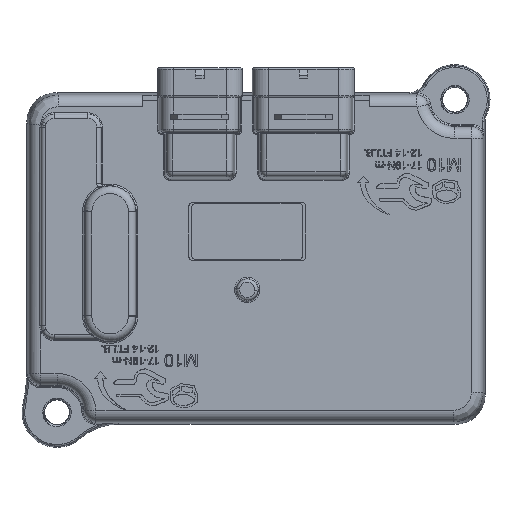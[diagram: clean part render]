
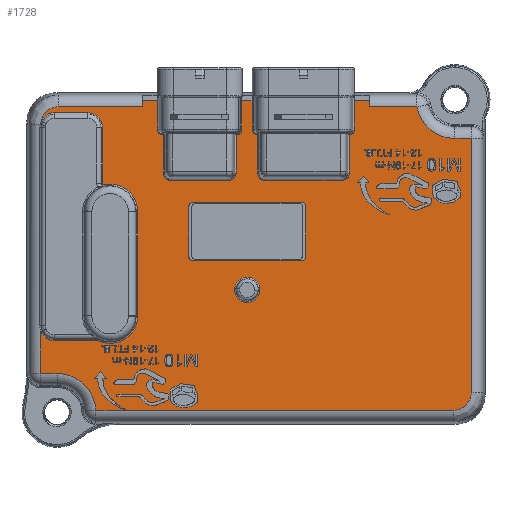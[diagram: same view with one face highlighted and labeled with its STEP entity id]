
A CAD part, front view. The second image highlights one B-rep face of the part: STEP entity #1728.
In plain terms, the highlighted planar face has unit normal (0, 1, 0).
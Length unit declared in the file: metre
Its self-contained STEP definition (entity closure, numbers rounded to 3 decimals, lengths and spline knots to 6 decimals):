
#1728=ADVANCED_FACE('0:30279',(#5224),#5225,.T.);
#5224=FACE_OUTER_BOUND('',#18381,.T.);
#5225=PLANE('',#18382);
#18381=EDGE_LOOP('',(#32280,#32281,#32282,#32283,#32284,#32285,#32286,#32287,#32288,#32289,#32290,#32291,#32292,#32293,#32294,#32295));
#18382=AXIS2_PLACEMENT_3D('',#32296,#32297,#32298);
#32280=ORIENTED_EDGE('',*,*,#36298,.F.);
#32281=ORIENTED_EDGE('',*,*,#36300,.T.);
#32282=ORIENTED_EDGE('',*,*,#36302,.T.);
#32283=ORIENTED_EDGE('',*,*,#32306,.T.);
#32284=ORIENTED_EDGE('',*,*,#36304,.T.);
#32285=ORIENTED_EDGE('',*,*,#36306,.T.);
#32286=ORIENTED_EDGE('',*,*,#36308,.F.);
#32287=ORIENTED_EDGE('',*,*,#36310,.T.);
#32288=ORIENTED_EDGE('',*,*,#36312,.F.);
#32289=ORIENTED_EDGE('',*,*,#36314,.T.);
#32290=ORIENTED_EDGE('',*,*,#36316,.T.);
#32291=ORIENTED_EDGE('',*,*,#36288,.T.);
#32292=ORIENTED_EDGE('',*,*,#36290,.T.);
#32293=ORIENTED_EDGE('',*,*,#36292,.T.);
#32294=ORIENTED_EDGE('',*,*,#36294,.F.);
#32295=ORIENTED_EDGE('',*,*,#36296,.T.);
#32296=CARTESIAN_POINT('',(0.0,0.003755,-0.075983));
#32297=DIRECTION('',(-0.0,1.0,0.0));
#32298=DIRECTION('',(1.0,0.0,0.0));
#32306=EDGE_CURVE('0:30291',#36330,#36328,#36331,.T.);
#36288=EDGE_CURVE('0:30315',#42768,#42766,#42769,.T.);
#36290=EDGE_CURVE('0:30318',#42766,#42771,#42772,.T.);
#36292=EDGE_CURVE('0:30321',#42771,#42774,#42775,.T.);
#36294=EDGE_CURVE('0:28572',#42777,#42774,#42778,.T.);
#36296=EDGE_CURVE('0:30327',#42777,#42780,#42781,.T.);
#36298=EDGE_CURVE('0:28427',#42783,#42780,#42784,.T.);
#36300=EDGE_CURVE('0:30285',#42783,#42786,#42787,.T.);
#36302=EDGE_CURVE('0:30288',#42786,#36330,#42789,.T.);
#36304=EDGE_CURVE('0:30294',#36328,#42791,#42792,.T.);
#36306=EDGE_CURVE('0:30297',#42791,#42794,#42795,.T.);
#36308=EDGE_CURVE('0:28016',#42797,#42794,#42798,.T.);
#36310=EDGE_CURVE('0:30303',#42797,#42800,#42801,.T.);
#36312=EDGE_CURVE('0:27870',#42803,#42800,#42804,.T.);
#36314=EDGE_CURVE('0:30309',#42803,#42806,#42807,.T.);
#36316=EDGE_CURVE('0:30312',#42806,#42768,#42809,.T.);
#36328=VERTEX_POINT('',#42823);
#36330=VERTEX_POINT('',#42825);
#36331=CIRCLE('',#42826,0.012249);
#42766=VERTEX_POINT('',#65664);
#42768=VERTEX_POINT('',#65666);
#42769=CIRCLE('',#65667,0.012249);
#42771=VERTEX_POINT('',#65674);
#42772=B_SPLINE_CURVE_WITH_KNOTS('',3,(#65675,#65676,#65677,#65678,#65679,#65680,#65681,#65682,#65683,#65684),.UNSPECIFIED.,.F.,.F.,(4,3,3,4),(0.,0.333333,0.666667,1.0),.UNSPECIFIED.);
#42774=VERTEX_POINT('',#65686);
#42775=LINE('',#65687,#65688);
#42777=VERTEX_POINT('',#65691);
#42778=ELLIPSE('',#65692,0.001504,0.0015);
#42780=VERTEX_POINT('',#65695);
#42781=LINE('',#65696,#65697);
#42783=VERTEX_POINT('',#65700);
#42784=ELLIPSE('',#65701,0.007521,0.0075);
#42786=VERTEX_POINT('',#65704);
#42787=LINE('',#65705,#65706);
#42789=B_SPLINE_CURVE_WITH_KNOTS('',3,(#65713,#65714,#65715,#65716,#65717,#65718,#65719,#65720,#65721,#65722,#65723,#65724,#65725,#65726,#65727,#65728),.UNSPECIFIED.,.F.,.F.,(4,3,3,3,3,4),(0.0,0.2,0.4,0.6,0.8,1.0),.UNSPECIFIED.);
#42791=VERTEX_POINT('',#65735);
#42792=B_SPLINE_CURVE_WITH_KNOTS('',3,(#65736,#65737,#65738,#65739,#65740,#65741,#65742,#65743,#65744,#65745),.UNSPECIFIED.,.F.,.F.,(4,3,3,4),(0.,0.333333,0.666667,1.0),.UNSPECIFIED.);
#42794=VERTEX_POINT('',#65747);
#42795=LINE('',#65748,#65749);
#42797=VERTEX_POINT('',#65752);
#42798=ELLIPSE('',#65753,0.001504,0.0015);
#42800=VERTEX_POINT('',#65756);
#42801=LINE('',#65757,#65758);
#42803=VERTEX_POINT('',#65761);
#42804=ELLIPSE('',#65762,0.007521,0.0075);
#42806=VERTEX_POINT('',#65765);
#42807=LINE('',#65766,#65767);
#42809=B_SPLINE_CURVE_WITH_KNOTS('',3,(#65774,#65775,#65776,#65777,#65778,#65779,#65780,#65781,#65782,#65783,#65784,#65785,#65786,#65787,#65788,#65789),.UNSPECIFIED.,.F.,.F.,(4,3,3,3,3,4),(0.0,0.2,0.4,0.6,0.8,1.0),.UNSPECIFIED.);
#42823=CARTESIAN_POINT('',(-0.069725,0.003755,-0.106583));
#42825=CARTESIAN_POINT('',(-0.052909,0.003755,-0.117771));
#42826=AXIS2_PLACEMENT_3D('',#65804,#65805,#65806);
#65664=CARTESIAN_POINT('',(0.075725,0.003755,-0.02221));
#65666=CARTESIAN_POINT('',(0.059025,0.003755,-0.012542));
#65667=AXIS2_PLACEMENT_3D('',#71540,#71541,#71542);
#65674=CARTESIAN_POINT('',(0.076284,0.003755,-0.022102));
#65675=CARTESIAN_POINT('',(0.075725,0.003755,-0.02221));
#65676=CARTESIAN_POINT('',(0.075785,0.003755,-0.022186));
#65677=CARTESIAN_POINT('',(0.075845,0.003755,-0.022166));
#65678=CARTESIAN_POINT('',(0.075907,0.003755,-0.02215));
#65679=CARTESIAN_POINT('',(0.075968,0.003755,-0.022134));
#65680=CARTESIAN_POINT('',(0.076031,0.003755,-0.022122));
#65681=CARTESIAN_POINT('',(0.076094,0.003755,-0.022114));
#65682=CARTESIAN_POINT('',(0.076157,0.003755,-0.022106));
#65683=CARTESIAN_POINT('',(0.07622,0.003755,-0.022102));
#65684=CARTESIAN_POINT('',(0.076284,0.003755,-0.022102));
#65686=CARTESIAN_POINT('',(0.07725,0.003755,-0.022102));
#65687=CARTESIAN_POINT('',(0.076284,0.003755,-0.022102));
#65688=VECTOR('',#71546,0.000966);
#65691=CARTESIAN_POINT('',(0.078748,0.003755,-0.0236));
#65692=AXIS2_PLACEMENT_3D('',#71548,#71549,#71550);
#65695=CARTESIAN_POINT('',(0.078748,0.003755,-0.111758));
#65696=CARTESIAN_POINT('',(0.078748,0.003755,-0.0236));
#65697=VECTOR('',#71552,0.088159);
#65700=CARTESIAN_POINT('',(0.071258,0.003755,-0.119248));
#65701=AXIS2_PLACEMENT_3D('',#71554,#71555,#71556);
#65704=CARTESIAN_POINT('',(-0.051411,0.003755,-0.119248));
#65705=CARTESIAN_POINT('',(0.071258,0.003755,-0.119248));
#65706=VECTOR('',#71558,0.122669);
#65713=CARTESIAN_POINT('',(-0.051411,0.003755,-0.119248));
#65714=CARTESIAN_POINT('',(-0.051572,0.003755,-0.119248));
#65715=CARTESIAN_POINT('',(-0.051725,0.003755,-0.119223));
#65716=CARTESIAN_POINT('',(-0.051871,0.003755,-0.119175));
#65717=CARTESIAN_POINT('',(-0.052018,0.003755,-0.119128));
#65718=CARTESIAN_POINT('',(-0.052159,0.003755,-0.119057));
#65719=CARTESIAN_POINT('',(-0.052285,0.003755,-0.118967));
#65720=CARTESIAN_POINT('',(-0.052411,0.003755,-0.118876));
#65721=CARTESIAN_POINT('',(-0.052523,0.003755,-0.118766));
#65722=CARTESIAN_POINT('',(-0.052615,0.003755,-0.118641));
#65723=CARTESIAN_POINT('',(-0.052707,0.003755,-0.118517));
#65724=CARTESIAN_POINT('',(-0.05278,0.003755,-0.118377));
#65725=CARTESIAN_POINT('',(-0.05283,0.003755,-0.118231));
#65726=CARTESIAN_POINT('',(-0.052879,0.003755,-0.118085));
#65727=CARTESIAN_POINT('',(-0.052906,0.003755,-0.117933));
#65728=CARTESIAN_POINT('',(-0.052909,0.003755,-0.117771));
#65735=CARTESIAN_POINT('',(-0.070284,0.003755,-0.106691));
#65736=CARTESIAN_POINT('',(-0.069725,0.003755,-0.106583));
#65737=CARTESIAN_POINT('',(-0.069785,0.003755,-0.106607));
#65738=CARTESIAN_POINT('',(-0.069845,0.003755,-0.106627));
#65739=CARTESIAN_POINT('',(-0.069907,0.003755,-0.106643));
#65740=CARTESIAN_POINT('',(-0.069968,0.003755,-0.106659));
#65741=CARTESIAN_POINT('',(-0.070031,0.003755,-0.106671));
#65742=CARTESIAN_POINT('',(-0.070094,0.003755,-0.106679));
#65743=CARTESIAN_POINT('',(-0.070157,0.003755,-0.106687));
#65744=CARTESIAN_POINT('',(-0.07022,0.003755,-0.106691));
#65745=CARTESIAN_POINT('',(-0.070284,0.003755,-0.106691));
#65747=CARTESIAN_POINT('',(-0.07125,0.003755,-0.106691));
#65748=CARTESIAN_POINT('',(-0.070284,0.003755,-0.106691));
#65749=VECTOR('',#71562,0.000966);
#65752=CARTESIAN_POINT('',(-0.072748,0.003755,-0.105193));
#65753=AXIS2_PLACEMENT_3D('',#71564,#71565,#71566);
#65756=CARTESIAN_POINT('',(-0.072748,0.003755,-0.018742));
#65757=CARTESIAN_POINT('',(-0.072748,0.003755,-0.105193));
#65758=VECTOR('',#71568,0.086451);
#65761=CARTESIAN_POINT('',(-0.065258,0.003755,-0.011252));
#65762=AXIS2_PLACEMENT_3D('',#71570,#71571,#71572);
#65765=CARTESIAN_POINT('',(0.057542,0.003755,-0.011252));
#65766=CARTESIAN_POINT('',(-0.065258,0.003755,-0.011252));
#65767=VECTOR('',#71574,0.1228);
#65774=CARTESIAN_POINT('',(0.057542,0.003755,-0.011252));
#65775=CARTESIAN_POINT('',(0.05769,0.003755,-0.011252));
#65776=CARTESIAN_POINT('',(0.05783,0.003755,-0.011273));
#65777=CARTESIAN_POINT('',(0.057966,0.003755,-0.011313));
#65778=CARTESIAN_POINT('',(0.058103,0.003755,-0.011354));
#65779=CARTESIAN_POINT('',(0.058234,0.003755,-0.011414));
#65780=CARTESIAN_POINT('',(0.058354,0.003755,-0.011491));
#65781=CARTESIAN_POINT('',(0.058474,0.003755,-0.011568));
#65782=CARTESIAN_POINT('',(0.058583,0.003755,-0.011663));
#65783=CARTESIAN_POINT('',(0.058676,0.003755,-0.011771));
#65784=CARTESIAN_POINT('',(0.058769,0.003755,-0.011879));
#65785=CARTESIAN_POINT('',(0.058847,0.003755,-0.012001));
#65786=CARTESIAN_POINT('',(0.058906,0.003755,-0.012131));
#65787=CARTESIAN_POINT('',(0.058965,0.003755,-0.01226));
#65788=CARTESIAN_POINT('',(0.059005,0.003755,-0.012396));
#65789=CARTESIAN_POINT('',(0.059025,0.003755,-0.012542));
#65804=CARTESIAN_POINT('',(-0.065156,0.003755,-0.117947));
#65805=DIRECTION('',(0.,-1.0,0.));
#65806=DIRECTION('',(1.,0.,0.014));
#71540=CARTESIAN_POINT('',(0.071156,0.003755,-0.010845));
#71541=DIRECTION('',(0.0,-1.0,-0.0));
#71542=DIRECTION('',(-0.99,0.0,-0.139));
#71546=DIRECTION('',(1.0,0.0,0.));
#71548=CARTESIAN_POINT('',(0.077272,0.003755,-0.023578));
#71549=DIRECTION('',(0.0,-1.0,0.0));
#71550=DIRECTION('',(0.707,0.0,0.707));
#71552=DIRECTION('',(0.0,0.0,-1.0));
#71554=CARTESIAN_POINT('',(0.071264,0.003755,-0.111764));
#71555=DIRECTION('',(0.0,-1.0,0.0));
#71556=DIRECTION('',(0.707,0.0,-0.707));
#71558=DIRECTION('',(-1.0,0.0,0.0));
#71562=DIRECTION('',(-1.0,0.0,0.));
#71564=CARTESIAN_POINT('',(-0.071272,0.003755,-0.105215));
#71565=DIRECTION('',(0.0,-1.0,-0.0));
#71566=DIRECTION('',(-0.707,0.0,-0.707));
#71568=DIRECTION('',(0.0,0.0,1.0));
#71570=CARTESIAN_POINT('',(-0.065264,0.003755,-0.018736));
#71571=DIRECTION('',(-0.0,-1.0,0.0));
#71572=DIRECTION('',(-0.707,0.0,0.707));
#71574=DIRECTION('',(1.0,0.0,0.0));
